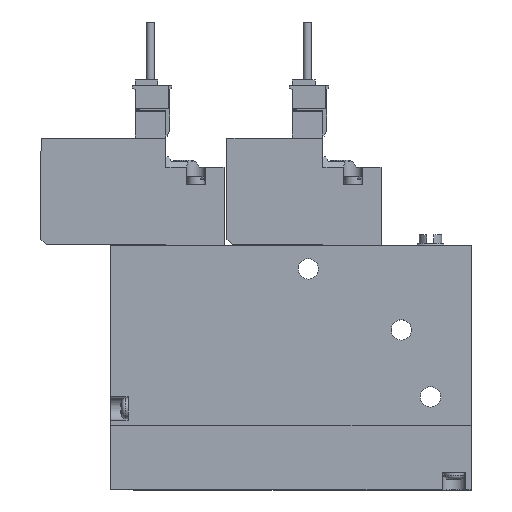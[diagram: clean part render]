
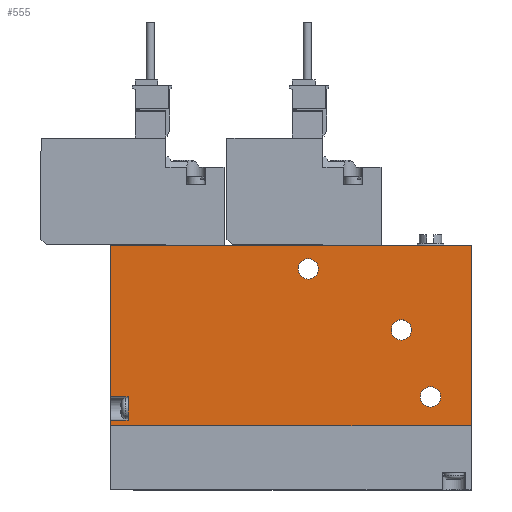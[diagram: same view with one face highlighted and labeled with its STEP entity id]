
A CAD part, top view. The second image highlights one B-rep face of the part: STEP entity #555.
In plain terms, the highlighted planar face has unit normal (0, 0, 1).
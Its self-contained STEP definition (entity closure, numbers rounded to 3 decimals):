
#555=ADVANCED_FACE('',(#1159,#1160,#1161,#1162),#1163,.T.);
#1159=FACE_OUTER_BOUND('',#1909,.T.);
#1160=FACE_BOUND('',#1910,.T.);
#1161=FACE_BOUND('',#1911,.T.);
#1162=FACE_BOUND('',#1912,.T.);
#1163=PLANE('',#1913);
#1909=EDGE_LOOP('',(#4048,#4049,#4050,#4051,#4052,#4053,#4054,#4055));
#1910=EDGE_LOOP('',(#4056));
#1911=EDGE_LOOP('',(#4057));
#1912=EDGE_LOOP('',(#4058));
#1913=AXIS2_PLACEMENT_3D('',#4059,#4060,#4061);
#4048=ORIENTED_EDGE('',*,*,#5416,.T.);
#4049=ORIENTED_EDGE('',*,*,#5376,.F.);
#4050=ORIENTED_EDGE('',*,*,#5398,.T.);
#4051=ORIENTED_EDGE('',*,*,#5438,.T.);
#4052=ORIENTED_EDGE('',*,*,#5414,.T.);
#4053=ORIENTED_EDGE('',*,*,#5439,.T.);
#4054=ORIENTED_EDGE('',*,*,#5431,.T.);
#4055=ORIENTED_EDGE('',*,*,#5359,.T.);
#4056=ORIENTED_EDGE('',*,*,#5440,.F.);
#4057=ORIENTED_EDGE('',*,*,#5422,.F.);
#4058=ORIENTED_EDGE('',*,*,#5437,.F.);
#4059=CARTESIAN_POINT('',(0.0,0.0,5.0));
#4060=DIRECTION('',(0.0,0.0,1.0));
#4061=DIRECTION('',(1.0,0.0,0.0));
#5359=EDGE_CURVE('',#6560,#6558,#6561,.T.);
#5376=EDGE_CURVE('',#6590,#6586,#6592,.T.);
#5398=EDGE_CURVE('',#6590,#6628,#6630,.T.);
#5414=EDGE_CURVE('',#6659,#6657,#6660,.T.);
#5416=EDGE_CURVE('',#6558,#6586,#6662,.T.);
#5422=EDGE_CURVE('',#6672,#6672,#6673,.T.);
#5431=EDGE_CURVE('',#6688,#6560,#6689,.T.);
#5437=EDGE_CURVE('',#6699,#6699,#6700,.T.);
#5438=EDGE_CURVE('',#6628,#6659,#6701,.T.);
#5439=EDGE_CURVE('',#6657,#6688,#6702,.T.);
#5440=EDGE_CURVE('',#6703,#6703,#6704,.T.);
#6558=VERTEX_POINT('',#8426);
#6560=VERTEX_POINT('',#8429);
#6561=LINE('',#8430,#8431);
#6586=VERTEX_POINT('',#8503);
#6590=VERTEX_POINT('',#8509);
#6592=LINE('',#8512,#8513);
#6628=VERTEX_POINT('',#8611);
#6630=LINE('',#8614,#8615);
#6657=VERTEX_POINT('',#8653);
#6659=VERTEX_POINT('',#8656);
#6660=LINE('',#8657,#8658);
#6662=LINE('',#8661,#8662);
#6672=VERTEX_POINT('',#8675);
#6673=CIRCLE('',#8676,1.75);
#6688=VERTEX_POINT('',#8695);
#6689=LINE('',#8696,#8697);
#6699=VERTEX_POINT('',#8708);
#6700=CIRCLE('',#8709,1.75);
#6701=LINE('',#8710,#8711);
#6702=LINE('',#8712,#8713);
#6703=VERTEX_POINT('',#8714);
#6704=CIRCLE('',#8715,1.75);
#8426=CARTESIAN_POINT('',(0.0,31.0,5.0));
#8429=CARTESIAN_POINT('',(62.0,31.0,5.0));
#8430=CARTESIAN_POINT('',(62.0,31.0,5.0));
#8431=VECTOR('',#9896,1.0);
#8503=CARTESIAN_POINT('',(0.0,5.0,5.0));
#8509=CARTESIAN_POINT('',(3.0,5.0,5.0));
#8512=CARTESIAN_POINT('',(3.0,5.0,5.0));
#8513=VECTOR('',#9920,1.0);
#8611=CARTESIAN_POINT('',(3.0,1.0,5.0));
#8614=CARTESIAN_POINT('',(3.0,5.0,5.0));
#8615=VECTOR('',#9958,1.0);
#8653=CARTESIAN_POINT('',(0.0,0.0,5.0));
#8656=CARTESIAN_POINT('',(0.0,1.0,5.0));
#8657=CARTESIAN_POINT('',(0.0,31.0,5.0));
#8658=VECTOR('',#9980,1.0);
#8661=CARTESIAN_POINT('',(0.0,31.0,5.0));
#8662=VECTOR('',#9982,1.0);
#8675=CARTESIAN_POINT('',(51.75,16.5,5.0));
#8676=AXIS2_PLACEMENT_3D('',#9992,#9993,#9994);
#8695=CARTESIAN_POINT('',(62.0,0.0,5.0));
#8696=CARTESIAN_POINT('',(62.0,0.0,5.0));
#8697=VECTOR('',#10011,1.0);
#8708=CARTESIAN_POINT('',(35.75,27.0,5.0));
#8709=AXIS2_PLACEMENT_3D('',#10025,#10026,#10027);
#8710=CARTESIAN_POINT('',(3.0,1.0,5.0));
#8711=VECTOR('',#10028,1.0);
#8712=CARTESIAN_POINT('',(0.0,0.0,5.0));
#8713=VECTOR('',#10029,1.0);
#8714=CARTESIAN_POINT('',(56.75,5.0,5.0));
#8715=AXIS2_PLACEMENT_3D('',#10030,#10031,#10032);
#9896=DIRECTION('',(-1.0,0.0,0.0));
#9920=DIRECTION('',(-1.0,0.0,0.0));
#9958=DIRECTION('',(0.0,-1.0,0.0));
#9980=DIRECTION('',(0.0,-1.0,0.0));
#9982=DIRECTION('',(0.0,-1.0,0.0));
#9992=CARTESIAN_POINT('',(50.0,16.5,5.0));
#9993=DIRECTION('',(0.0,0.0,1.0));
#9994=DIRECTION('',(1.0,0.0,0.0));
#10011=DIRECTION('',(0.0,1.0,0.0));
#10025=CARTESIAN_POINT('',(34.0,27.0,5.0));
#10026=DIRECTION('',(0.0,0.0,1.0));
#10027=DIRECTION('',(1.0,0.0,0.0));
#10028=DIRECTION('',(-1.0,0.0,0.0));
#10029=DIRECTION('',(1.0,0.0,0.0));
#10030=CARTESIAN_POINT('',(55.0,5.0,5.0));
#10031=DIRECTION('',(0.0,0.0,1.0));
#10032=DIRECTION('',(1.0,0.0,0.0));
